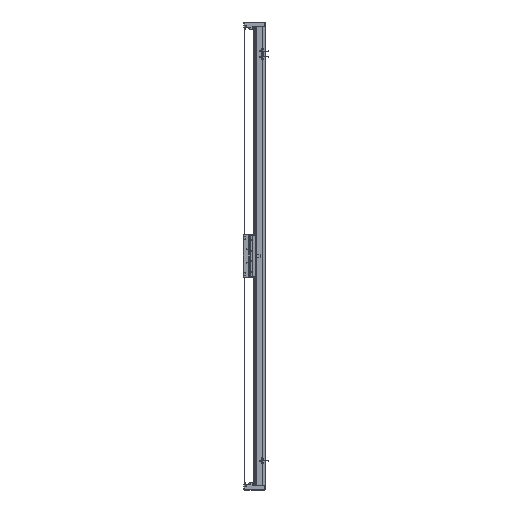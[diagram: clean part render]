
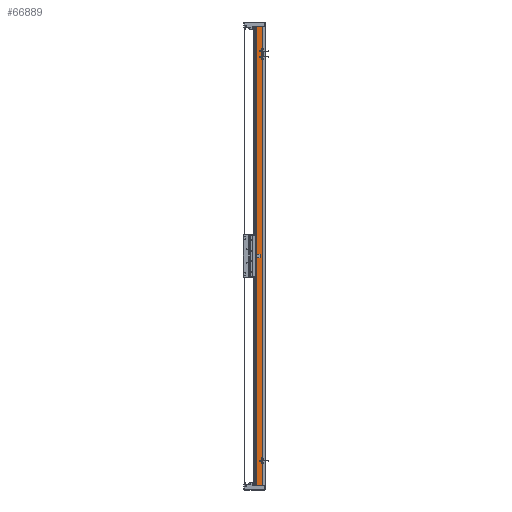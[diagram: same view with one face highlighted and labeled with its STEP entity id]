
A CAD part, left-side view. The second image highlights one B-rep face of the part: STEP entity #66889.
In plain terms, the highlighted planar face has unit normal (-1, 0, 0).
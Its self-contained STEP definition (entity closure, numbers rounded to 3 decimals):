
#6463 = DIRECTION ( 'NONE',  ( 0., 0., -1. ) ) ;
#10839 = VERTEX_POINT ( 'NONE', #16478 ) ;
#12856 = CARTESIAN_POINT ( 'NONE',  ( -82.5, 14.45, 1020. ) ) ;
#13910 = DIRECTION ( 'NONE',  ( 0., 0., -1. ) ) ;
#16478 = CARTESIAN_POINT ( 'NONE',  ( -82.5, 36.95, 1020. ) ) ;
#17825 = EDGE_LOOP ( 'NONE', ( #99772, #56534, #44383, #53171 ) ) ;
#21329 = CARTESIAN_POINT ( 'NONE',  ( -82.5, 36.95, 1020. ) ) ;
#25817 = EDGE_CURVE ( 'NONE', #10839, #44301, #33771, .T. ) ;
#31316 = CARTESIAN_POINT ( 'NONE',  ( -82.5, 36.95, -1020. ) ) ;
#31999 = CARTESIAN_POINT ( 'NONE',  ( -82.5, 36.95, 1020. ) ) ;
#33771 = LINE ( 'NONE', #31999, #99396 ) ;
#38913 = AXIS2_PLACEMENT_3D ( 'NONE', #47769, #100636, #92320 ) ;
#41106 = CARTESIAN_POINT ( 'NONE',  ( -82.5, 36.95, -1020. ) ) ;
#43903 = VERTEX_POINT ( 'NONE', #93253 ) ;
#44301 = VERTEX_POINT ( 'NONE', #31316 ) ;
#44383 = ORIENTED_EDGE ( 'NONE', *, *, #100153, .F. ) ;
#47051 = VECTOR ( 'NONE', #13910, 1000. ) ;
#47201 = FACE_OUTER_BOUND ( 'NONE', #17825, .T. ) ;
#47769 = CARTESIAN_POINT ( 'NONE',  ( -82.5, 36.95, 1020. ) ) ;
#49209 = LINE ( 'NONE', #21329, #115758 ) ;
#50105 = CARTESIAN_POINT ( 'NONE',  ( -82.5, 14.45, 1020. ) ) ;
#53171 = ORIENTED_EDGE ( 'NONE', *, *, #25817, .T. ) ;
#56534 = ORIENTED_EDGE ( 'NONE', *, *, #113550, .F. ) ;
#56985 = DIRECTION ( 'NONE',  ( 0., -1., 0. ) ) ;
#58947 = LINE ( 'NONE', #41106, #116372 ) ;
#59621 = VERTEX_POINT ( 'NONE', #12856 ) ;
#66889 = ADVANCED_FACE ( 'NONE', ( #47201 ), #100052, .F. ) ;
#76816 = LINE ( 'NONE', #50105, #47051 ) ;
#79082 = DIRECTION ( 'NONE',  ( 0., -1., 0. ) ) ;
#82324 = EDGE_CURVE ( 'NONE', #44301, #43903, #58947, .T. ) ;
#92320 = DIRECTION ( 'NONE',  ( 0., 1., 0. ) ) ;
#93253 = CARTESIAN_POINT ( 'NONE',  ( -82.5, 14.45, -1020. ) ) ;
#99396 = VECTOR ( 'NONE', #6463, 1000. ) ;
#99772 = ORIENTED_EDGE ( 'NONE', *, *, #82324, .T. ) ;
#100052 = PLANE ( 'NONE',  #38913 ) ;
#100153 = EDGE_CURVE ( 'NONE', #10839, #59621, #49209, .T. ) ;
#100636 = DIRECTION ( 'NONE',  ( 1., 0., 0. ) ) ;
#113550 = EDGE_CURVE ( 'NONE', #59621, #43903, #76816, .T. ) ;
#115758 = VECTOR ( 'NONE', #56985, 1000. ) ;
#116372 = VECTOR ( 'NONE', #79082, 1000. ) ;
